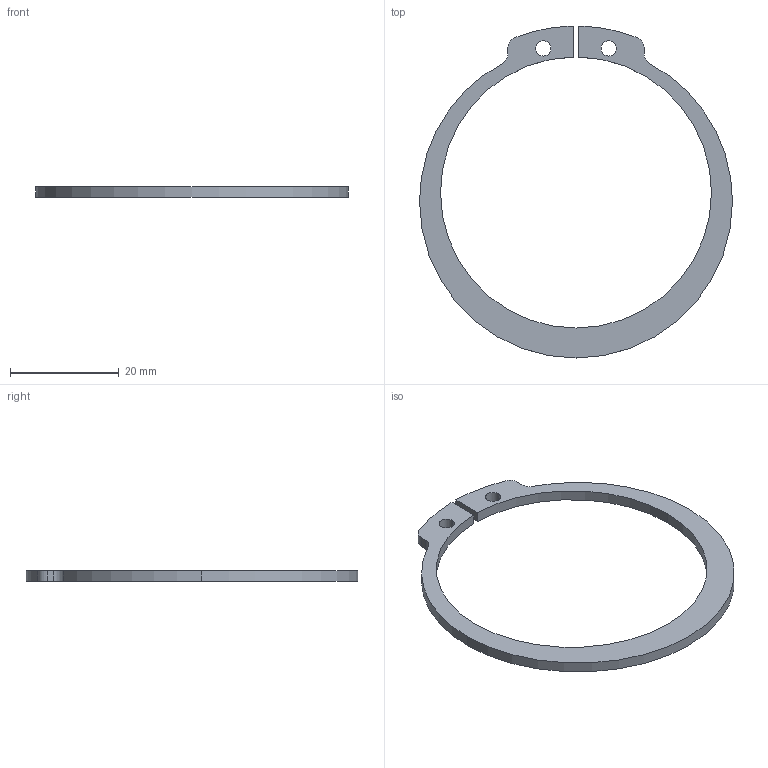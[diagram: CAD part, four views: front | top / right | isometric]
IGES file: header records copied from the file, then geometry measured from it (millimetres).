
Start section: START RECORD GO HERE.
Global section: file name: 553S-R54.igs; native system: DASSAULT SYSTEMES CATIA V5 R20 - www.3ds.com; preprocessor: CATIA Version 5 Release 20 ; author: Utente; organization: NB04-ASUS; date: 20210421.111415; units: millimetre
Bounding box: 57.5 x 61 x 2 mm (x, y, z)
Surface area: 2179.8 mm2 (no closed solid volume)
Topology: 0 solids, 0 shells, 22 faces, 120 edges, 120 vertices
Faces by surface type: revolution 16, plane 6
